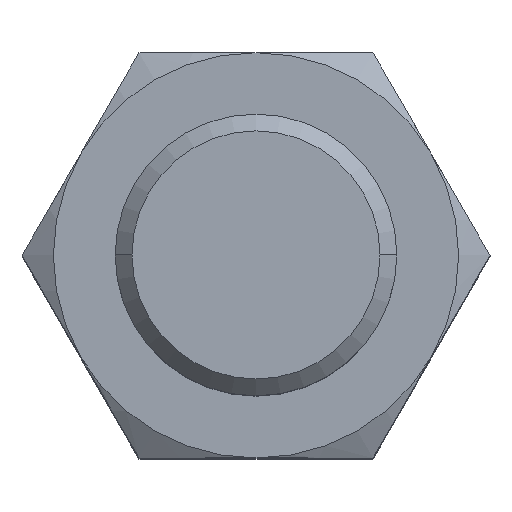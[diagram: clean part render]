
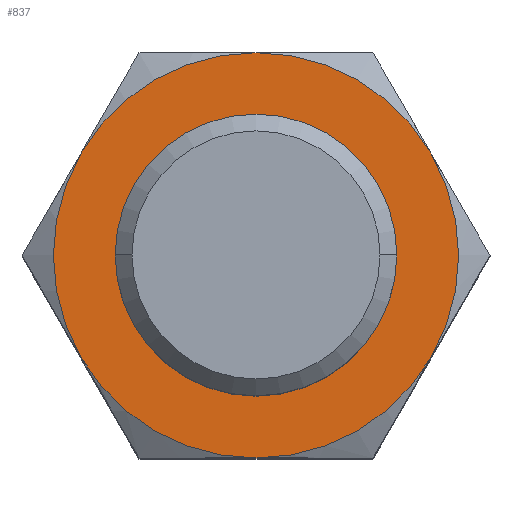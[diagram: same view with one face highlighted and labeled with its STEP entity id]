
A CAD part, top view. The second image highlights one B-rep face of the part: STEP entity #837.
In plain terms, the highlighted planar face has unit normal (0, 0, 1).
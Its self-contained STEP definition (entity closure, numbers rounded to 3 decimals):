
#11 = PLANE ( 'NONE',  #376 ) ;
#21 = DIRECTION ( 'NONE',  ( 1., 0., 0. ) ) ;
#35 = AXIS2_PLACEMENT_3D ( 'NONE', #316, #907, #1384 ) ;
#37 = FACE_OUTER_BOUND ( 'NONE', #508, .T. ) ;
#39 = CIRCLE ( 'NONE', #963, 7. ) ;
#45 = EDGE_CURVE ( 'NONE', #906, #391, #485, .T. ) ;
#48 = ORIENTED_EDGE ( 'NONE', *, *, #1118, .T. ) ;
#60 = DIRECTION ( 'NONE',  ( 1., 0., 0. ) ) ;
#98 = EDGE_CURVE ( 'NONE', #860, #941, #295, .T. ) ;
#108 = DIRECTION ( 'NONE',  ( 0., 0., 1. ) ) ;
#112 = DIRECTION ( 'NONE',  ( 0., 1., 0. ) ) ;
#136 = CARTESIAN_POINT ( 'NONE',  ( 0., 7., 26. ) ) ;
#143 = DIRECTION ( 'NONE',  ( 0., 0., 1. ) ) ;
#174 = AXIS2_PLACEMENT_3D ( 'NONE', #1142, #1500, #60 ) ;
#209 = DIRECTION ( 'NONE',  ( 0., 0., 1. ) ) ;
#212 = VERTEX_POINT ( 'NONE', #352 ) ;
#222 = CIRCLE ( 'NONE', #876, 7. ) ;
#263 = VERTEX_POINT ( 'NONE', #136 ) ;
#278 = CARTESIAN_POINT ( 'NONE',  ( 4.865, 0., 26. ) ) ;
#285 = CARTESIAN_POINT ( 'NONE',  ( -6.062, -3.5, 26. ) ) ;
#287 = AXIS2_PLACEMENT_3D ( 'NONE', #1199, #143, #847 ) ;
#295 = CIRCLE ( 'NONE', #1436, 7. ) ;
#308 = CIRCLE ( 'NONE', #287, 7. ) ;
#316 = CARTESIAN_POINT ( 'NONE',  ( 0., 0., 26. ) ) ;
#352 = CARTESIAN_POINT ( 'NONE',  ( 0., -7., 26. ) ) ;
#354 = DIRECTION ( 'NONE',  ( 0., 0., 1. ) ) ;
#376 = AXIS2_PLACEMENT_3D ( 'NONE', #859, #976, #21 ) ;
#391 = VERTEX_POINT ( 'NONE', #1201 ) ;
#398 = CARTESIAN_POINT ( 'NONE',  ( 6.062, -3.5, 26. ) ) ;
#399 = CIRCLE ( 'NONE', #830, 7. ) ;
#410 = ORIENTED_EDGE ( 'NONE', *, *, #98, .T. ) ;
#483 = VERTEX_POINT ( 'NONE', #398 ) ;
#485 = CIRCLE ( 'NONE', #174, 4.865 ) ;
#487 = CARTESIAN_POINT ( 'NONE',  ( -6.062, 3.5, 26. ) ) ;
#507 = DIRECTION ( 'NONE',  ( 0., 0., 1. ) ) ;
#508 = EDGE_LOOP ( 'NONE', ( #1187, #410, #541, #48, #858, #1277 ) ) ;
#516 = ORIENTED_EDGE ( 'NONE', *, *, #45, .T. ) ;
#537 = AXIS2_PLACEMENT_3D ( 'NONE', #1432, #354, #112 ) ;
#541 = ORIENTED_EDGE ( 'NONE', *, *, #755, .T. ) ;
#594 = CARTESIAN_POINT ( 'NONE',  ( 0., 0., 26. ) ) ;
#602 = EDGE_CURVE ( 'NONE', #391, #906, #777, .T. ) ;
#755 = EDGE_CURVE ( 'NONE', #941, #212, #1452, .T. ) ;
#777 = CIRCLE ( 'NONE', #35, 4.865 ) ;
#815 = CARTESIAN_POINT ( 'NONE',  ( 0., 0., 26. ) ) ;
#830 = AXIS2_PLACEMENT_3D ( 'NONE', #1214, #507, #1337 ) ;
#835 = EDGE_CURVE ( 'NONE', #918, #263, #308, .T. ) ;
#837 = ADVANCED_FACE ( 'NONE', ( #37, #1567 ), #11, .T. ) ;
#847 = DIRECTION ( 'NONE',  ( 0., 1., 0. ) ) ;
#858 = ORIENTED_EDGE ( 'NONE', *, *, #1282, .T. ) ;
#859 = CARTESIAN_POINT ( 'NONE',  ( 0., 0., 26. ) ) ;
#860 = VERTEX_POINT ( 'NONE', #487 ) ;
#876 = AXIS2_PLACEMENT_3D ( 'NONE', #594, #108, #1069 ) ;
#906 = VERTEX_POINT ( 'NONE', #278 ) ;
#907 = DIRECTION ( 'NONE',  ( 0., 0., -1. ) ) ;
#918 = VERTEX_POINT ( 'NONE', #1360 ) ;
#922 = DIRECTION ( 'NONE',  ( 0., 1., 0. ) ) ;
#941 = VERTEX_POINT ( 'NONE', #285 ) ;
#963 = AXIS2_PLACEMENT_3D ( 'NONE', #1276, #209, #922 ) ;
#976 = DIRECTION ( 'NONE',  ( 0., 0., 1. ) ) ;
#1069 = DIRECTION ( 'NONE',  ( 0., 1., 0. ) ) ;
#1071 = DIRECTION ( 'NONE',  ( 0., 1., 0. ) ) ;
#1118 = EDGE_CURVE ( 'NONE', #212, #483, #39, .T. ) ;
#1142 = CARTESIAN_POINT ( 'NONE',  ( 0., 0., 26. ) ) ;
#1187 = ORIENTED_EDGE ( 'NONE', *, *, #1363, .T. ) ;
#1199 = CARTESIAN_POINT ( 'NONE',  ( 0., 0., 26. ) ) ;
#1201 = CARTESIAN_POINT ( 'NONE',  ( -4.865, 0., 26. ) ) ;
#1214 = CARTESIAN_POINT ( 'NONE',  ( 0., 0., 26. ) ) ;
#1219 = ORIENTED_EDGE ( 'NONE', *, *, #602, .T. ) ;
#1276 = CARTESIAN_POINT ( 'NONE',  ( 0., 0., 26. ) ) ;
#1277 = ORIENTED_EDGE ( 'NONE', *, *, #835, .T. ) ;
#1282 = EDGE_CURVE ( 'NONE', #483, #918, #399, .T. ) ;
#1283 = DIRECTION ( 'NONE',  ( 0., 0., 1. ) ) ;
#1337 = DIRECTION ( 'NONE',  ( 0., 1., 0. ) ) ;
#1360 = CARTESIAN_POINT ( 'NONE',  ( 6.062, 3.5, 26. ) ) ;
#1363 = EDGE_CURVE ( 'NONE', #263, #860, #222, .T. ) ;
#1384 = DIRECTION ( 'NONE',  ( 1., 0., 0. ) ) ;
#1432 = CARTESIAN_POINT ( 'NONE',  ( 0., 0., 26. ) ) ;
#1436 = AXIS2_PLACEMENT_3D ( 'NONE', #815, #1283, #1071 ) ;
#1437 = EDGE_LOOP ( 'NONE', ( #516, #1219 ) ) ;
#1452 = CIRCLE ( 'NONE', #537, 7. ) ;
#1500 = DIRECTION ( 'NONE',  ( 0., 0., -1. ) ) ;
#1567 = FACE_BOUND ( 'NONE', #1437, .T. ) ;
